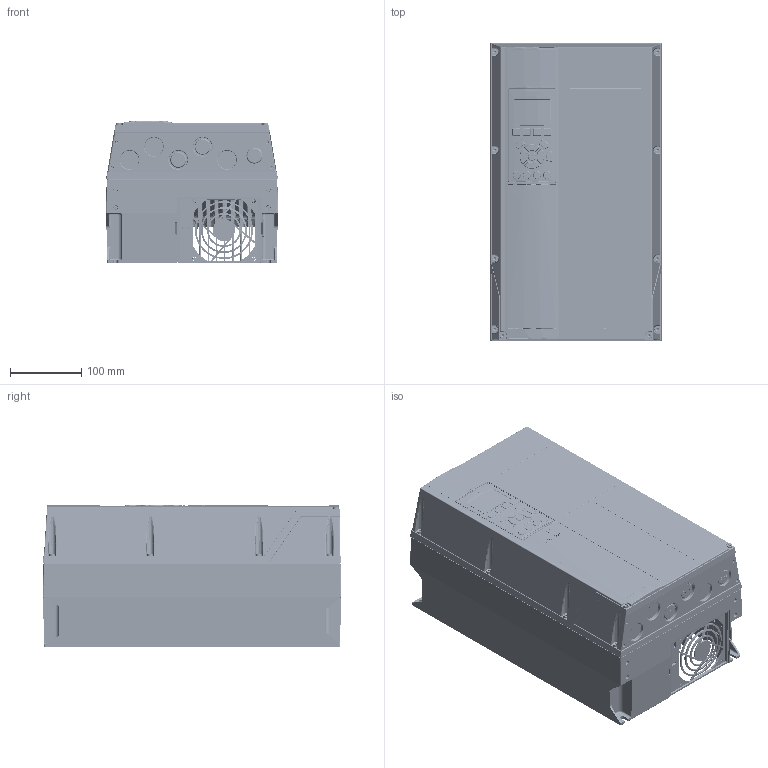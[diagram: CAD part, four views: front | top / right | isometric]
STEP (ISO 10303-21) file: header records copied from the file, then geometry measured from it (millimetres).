
FILE_DESCRIPTION((''),'2;1');
FILE_NAME('DANFOSS-FC-200-A5','2011-10-20T',('cstephenkumar'),('Be-Atch INC. 1993'),'PRO/ENGINEER BY PARAMETRIC TECHNOLOGY CORPORATION, 2009360','PRO/ENGINEER BY PARAMETRIC TECHNOLOGY CORPORATION, 2009360','');
FILE_SCHEMA(('AUTOMOTIVE_DESIGN { 1 0 10303 214 1 1 1 1 }'));
Products named in the file (1): DANFOSS-FC-200-A5
Bounding box: 242 x 420.2 x 201.24 mm (x, y, z)
Volume: 13675156.5 mm3; surface area: 1514821.5 mm2
Topology: 1 solids, 40 shells, 7027 faces, 17824 edges, 10977 vertices
Faces by surface type: plane 2520, cylinder 1939, bspline 1707, torus 297, cone 268, sphere 169, extrusion 127
Entity records: 384177 total; most frequent: CARTESIAN_POINT 228532, ORIENTED_EDGE 35604, DIRECTION 27210, EDGE_CURVE 17802, VERTEX_POINT 10977, AXIS2_PLACEMENT_3D 9279, VECTOR 8652, LINE 8525
